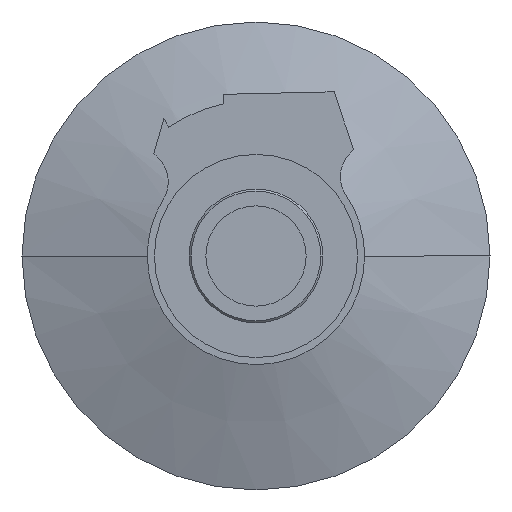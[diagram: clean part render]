
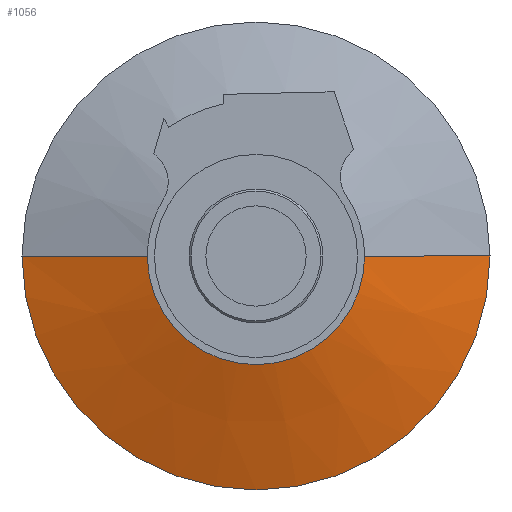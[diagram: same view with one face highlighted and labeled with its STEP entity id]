
A CAD part, front view. The second image highlights one B-rep face of the part: STEP entity #1056.
In plain terms, the highlighted conical face has half-angle 71.041 degrees and reference radius 19.304 mm.
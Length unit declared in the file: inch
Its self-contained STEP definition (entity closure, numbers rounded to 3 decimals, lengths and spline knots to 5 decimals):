
#29 = EDGE_CURVE ( 'NONE', #1324, #2342, #478, .T. ) ;
#46 = AXIS2_PLACEMENT_3D ( 'NONE', #1379, #1594, #1110 ) ;
#50 = EDGE_CURVE ( 'NONE', #2342, #1517, #1855, .T. ) ;
#334 = VERTEX_POINT ( 'NONE', #1332 ) ;
#447 = ORIENTED_EDGE ( 'NONE', *, *, #600, .T. ) ;
#478 = CIRCLE ( 'NONE', #520, 0.76 ) ;
#520 = AXIS2_PLACEMENT_3D ( 'NONE', #2823, #625, #2059 ) ;
#539 = CARTESIAN_POINT ( 'NONE',  ( -0.76, 0.80015, 0. ) ) ;
#571 = DIRECTION ( 'NONE',  ( 0., -1., 0. ) ) ;
#600 = EDGE_CURVE ( 'NONE', #1324, #334, #2218, .T. ) ;
#625 = DIRECTION ( 'NONE',  ( 0., -1., 0. ) ) ;
#736 = ORIENTED_EDGE ( 'NONE', *, *, #29, .F. ) ;
#1020 = AXIS2_PLACEMENT_3D ( 'NONE', #2052, #571, #2286 ) ;
#1056 = ADVANCED_FACE ( 'NONE', ( #2393 ), #2959, .T. ) ;
#1073 = CARTESIAN_POINT ( 'NONE',  ( -0.76, 0.80015, 0. ) ) ;
#1110 = DIRECTION ( 'NONE',  ( -1., 0., 0. ) ) ;
#1117 = DIRECTION ( 'NONE',  ( 0.946, 0.325, 0. ) ) ;
#1157 = EDGE_CURVE ( 'NONE', #334, #1517, #2234, .T. ) ;
#1324 = VERTEX_POINT ( 'NONE', #1073 ) ;
#1332 = CARTESIAN_POINT ( 'NONE',  ( -1.75, 1.14024, 0. ) ) ;
#1379 = CARTESIAN_POINT ( 'NONE',  ( 0., 0.80015, 0. ) ) ;
#1436 = VECTOR ( 'NONE', #1117, 39.37008 ) ;
#1517 = VERTEX_POINT ( 'NONE', #2285 ) ;
#1590 = CARTESIAN_POINT ( 'NONE',  ( 0.76, 0.80015, 0. ) ) ;
#1594 = DIRECTION ( 'NONE',  ( 0., 1., 0. ) ) ;
#1815 = ORIENTED_EDGE ( 'NONE', *, *, #1157, .T. ) ;
#1855 = LINE ( 'NONE', #1590, #1436 ) ;
#2052 = CARTESIAN_POINT ( 'NONE',  ( 0., 1.14024, 0. ) ) ;
#2059 = DIRECTION ( 'NONE',  ( 1., 0., 0. ) ) ;
#2118 = EDGE_LOOP ( 'NONE', ( #3035, #736, #447, #1815 ) ) ;
#2218 = LINE ( 'NONE', #539, #2675 ) ;
#2234 = CIRCLE ( 'NONE', #1020, 1.75 ) ;
#2285 = CARTESIAN_POINT ( 'NONE',  ( 1.75, 1.14024, 0. ) ) ;
#2286 = DIRECTION ( 'NONE',  ( 1., 0., 0. ) ) ;
#2342 = VERTEX_POINT ( 'NONE', #3003 ) ;
#2393 = FACE_OUTER_BOUND ( 'NONE', #2118, .T. ) ;
#2675 = VECTOR ( 'NONE', #2731, 39.37008 ) ;
#2731 = DIRECTION ( 'NONE',  ( -0.946, 0.325, 0. ) ) ;
#2823 = CARTESIAN_POINT ( 'NONE',  ( 0., 0.80015, 0. ) ) ;
#2959 = CONICAL_SURFACE ( 'NONE', #46, 0.76, 1.24 ) ;
#3003 = CARTESIAN_POINT ( 'NONE',  ( 0.76, 0.80015, 0. ) ) ;
#3035 = ORIENTED_EDGE ( 'NONE', *, *, #50, .F. ) ;
